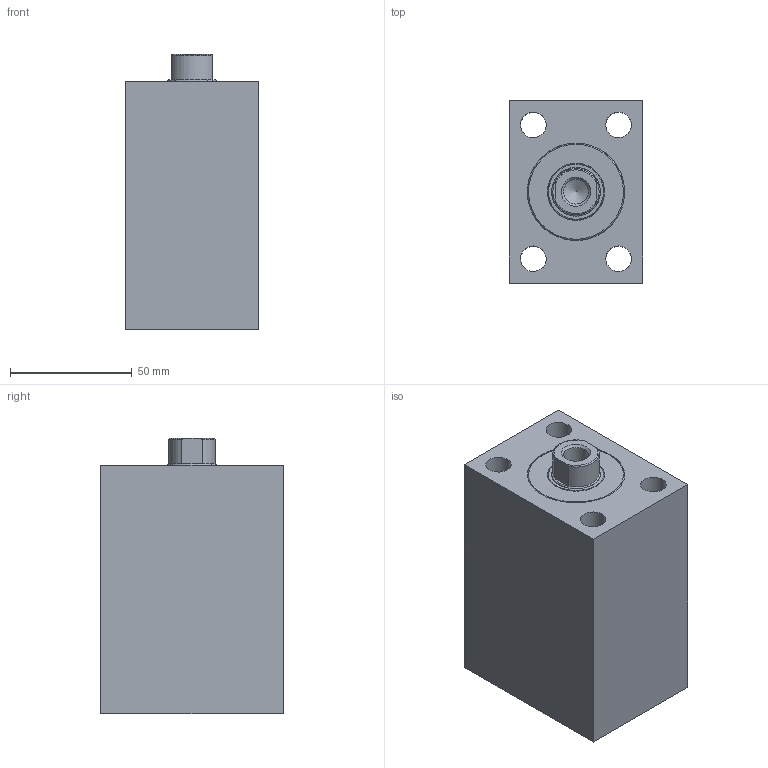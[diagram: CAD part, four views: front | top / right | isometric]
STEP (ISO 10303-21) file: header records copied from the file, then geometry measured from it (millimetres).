
FILE_DESCRIPTION( ( 'STEP AP203' ), '1' );
FILE_NAME( 'C:/Users/SAYKO.ltd/Desktop/SBZ100/02/SBZ100-32/SBZ100.32__FORM_02_STROKE_30__H2_58_POS_0_.stp', ' ', ( ' ' ), ( ' ' ), 'PSStep 15.0.47', 'PARTsolutions', ' ' );
FILE_SCHEMA( ( 'CONFIG_CONTROL_DESIGN' ) );
Length unit declared in the file: millimetre
Products named in the file (5): SBZ100.32  FORM=02 STROKE=30 (H2=58 POS=0); HI_SBZ10032  FORM=02 STROKE=30 H2=58 -C; HI_SBZ10032  FORM=02 STROKE=30-R; HI_SBZ100.32-C; HI_SBZ100.32-S
Assembly tree (4 placements, depth 2):
  SBZ100.32  FORM=02 STROKE=30 (H2=58 POS=0)
    HI_SBZ10032  FORM=02 STROKE=30 H2=58 -C
    HI_SBZ10032  FORM=02 STROKE=30-R
    HI_SBZ100.32-C
    HI_SBZ100.32-S
Bounding box: 55 x 75 x 113 mm (x, y, z)
Volume: 360877.8 mm3; surface area: 78420.3 mm2
Topology: 4 solids, 4 shells, 66 faces, 130 edges, 85 vertices
Faces by surface type: plane 31, cylinder 28, cone 4, torus 3
Full cylindrical faces by diameter (mm): 3 x2, 10.106 x1, 10.5 x4, 11.445 x2, 16 x2, 18 x4, 20 x4, 23.5 x1, 28 x2, 32 x2, 40 x2
Entity records: 3599 total; most frequent: CARTESIAN_POINT 2369, ORIENTED_EDGE 176, DIRECTION 158, EDGE_LOOP 128, FACE_OUTER_BOUND 93, EDGE_CURVE 88, VERTEX_POINT 77, B_SPLINE_CURVE_WITH_KNOTS 72
